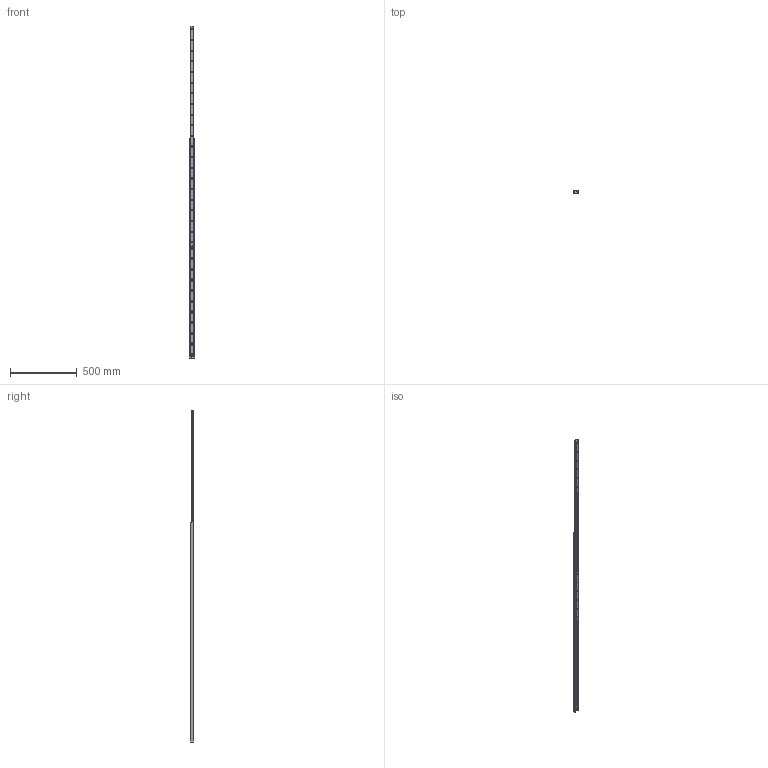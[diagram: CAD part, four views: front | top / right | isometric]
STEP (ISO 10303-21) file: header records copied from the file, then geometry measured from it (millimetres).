
FILE_DESCRIPTION(('STEP AP214'),'1');
FILE_NAME('rail_asn43-1650_01.stp','2017-05-30T14:03:02',('TraceParts'),('TraceParts S.A.'),'Spatial InterOp 3D',' ',' ');
FILE_SCHEMA(('automotive_design'));
Length unit declared in the file: millimetre
Products named in the file (2): rail_asn43-1650_01_1; rail_asn43-1650_01_2
Bounding box: 43 x 22.01 x 2493 mm (x, y, z)
Volume: 1004253.9 mm3; surface area: 388146 mm2
Topology: 2 solids, 2 shells, 287 faces, 708 edges, 430 vertices
Faces by surface type: cone 126, cylinder 115, plane 46
Entity records: 8688 total; most frequent: DIRECTION 1642, CARTESIAN_POINT 1427, ORIENTED_EDGE 1416, EDGE_CURVE 708, AXIS2_PLACEMENT_3D 645, VERTEX_POINT 430, EDGE_LOOP 376, CIRCLE 356
